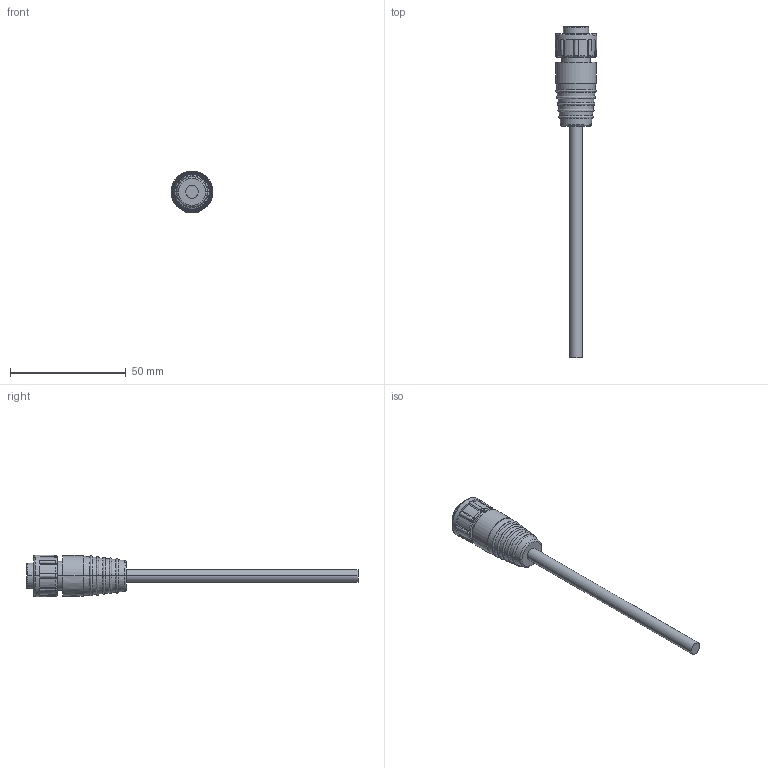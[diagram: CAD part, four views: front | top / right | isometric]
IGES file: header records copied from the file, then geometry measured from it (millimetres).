
Start section:  PTC IGES file: ABB-04BFFM-LL7AXX.igs
Global section: file name: ABB-04BFFM-LL7AXX.igs; native system: Creo Parametric by Parametric Technology Corporation; preprocessor: 2013050; author: KS7307; organization: Unknown; date: 20160613.144212; units: millimetre
Bounding box: 18 x 143.25 x 18.1 mm (x, y, z)
Volume: 10328.4 mm3; surface area: 6236.7 mm2
Topology: 2 solids, 2 shells, 477 faces, 1265 edges, 804 vertices
Faces by surface type: bspline 291, revolution 130, extrusion 56
